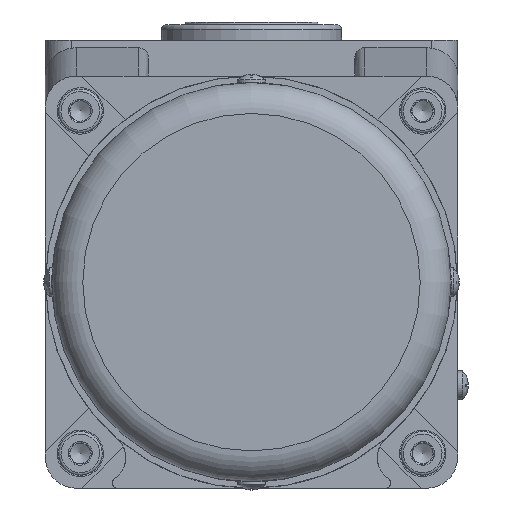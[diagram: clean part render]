
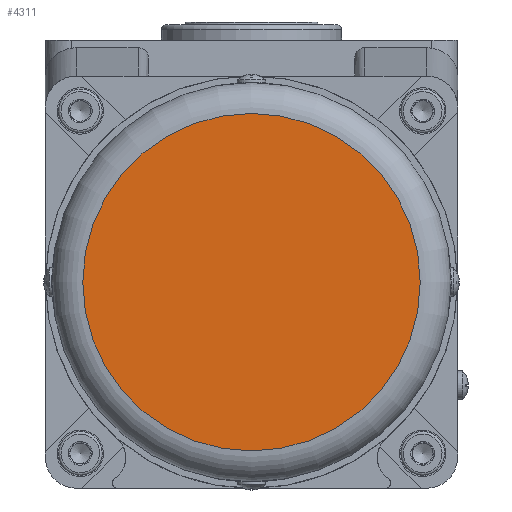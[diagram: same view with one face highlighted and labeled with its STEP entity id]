
A CAD part, front view. The second image highlights one B-rep face of the part: STEP entity #4311.
In plain terms, the highlighted planar face has unit normal (0, -1, 0).
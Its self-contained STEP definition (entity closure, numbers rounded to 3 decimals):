
#2163=PLANE('',#13612);
#4311=ADVANCED_FACE('',(#5085),#2163,.T.);
#5085=FACE_OUTER_BOUND('',#5963,.T.);
#5963=EDGE_LOOP('',(#8725));
#8725=ORIENTED_EDGE('',*,*,#11445,.T.);
#10012=VERTEX_POINT('',#21457);
#11445=EDGE_CURVE('',#10012,#10012,#12192,.T.);
#12192=CIRCLE('',#13611,32.75);
#13611=AXIS2_PLACEMENT_3D('',#21456,#16702,#16703);
#13612=AXIS2_PLACEMENT_3D('',#21458,#16704,#16705);
#16702=DIRECTION('',(0.,-1.,0.));
#16703=DIRECTION('',(1.,0.,0.));
#16704=DIRECTION('',(0.,-1.,0.));
#16705=DIRECTION('',(1.,0.,0.));
#21456=CARTESIAN_POINT('',(0.,-208.,-47.));
#21457=CARTESIAN_POINT('',(32.75,-208.,-47.));
#21458=CARTESIAN_POINT('',(0.,-208.,-47.));
